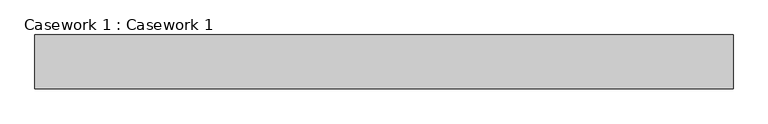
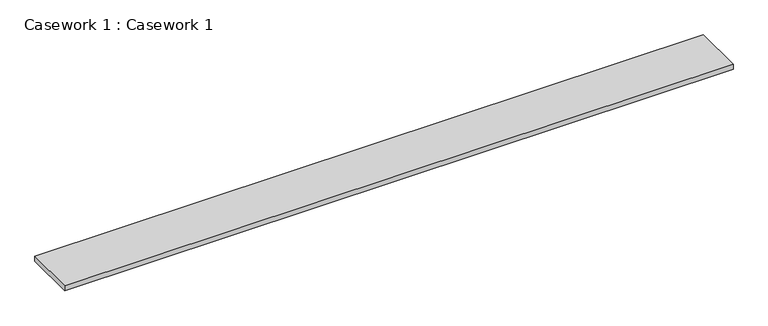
"""IFC4 building model written with IfcOpenShell, lengths in millimetres: furniture geometry, Casework 1 : Casework 1."""

from ifc_helpers import new_model, si_unit, frame, origin, place, context, project, spatial, polyline, outline, extrude, source, transform, mapped, element, save


def casework_1_casework_1_e628ac29(model_context):
    return source(origin(), model_context, "Body", "SweptSolid", [
        extrude(outline(polyline([(6774.6255216, -8188.0527772), (6774.6255216, -8688.0527772), (274.6255216, -8688.0527772), (274.6255216, -8188.0527772), (6774.6255216, -8188.0527772)])), frame((0.0, 0.0, 750.0), z_axis=(0.0, 0.0, 1.0), x_axis=(1.0, 0.0, 0.0)), (0.0, 0.0, 1.0), 50.0),
    ])


if __name__ == "__main__":
    model = new_model("IFC4")
    model_context = context("Model", 3, world=origin())
    ifc_project = project(units=[si_unit("LENGTHUNIT", "METRE", prefix="MILLI")], contexts=[model_context])
    site = spatial("IfcSite", under=ifc_project)
    building = spatial("IfcBuilding", under=site)
    placement = place(None, origin())
    casework_1_casework_1_shape = casework_1_casework_1_e628ac29(model_context)
    element("IfcFurniture", 1, ObjectType="Casework 1 : Casework 1", at=placement, inside=building, context=model_context, shape_type="MappedRepresentation", body=[
        mapped(casework_1_casework_1_shape, transform((0.0, 0.0, 0.0), x_axis=(1.0, 0.0, 0.0), y_axis=(0.0, 1.0, 0.0), z_axis=(0.0, 0.0, 1.0))),
    ])
    save(model, "model.ifc")
